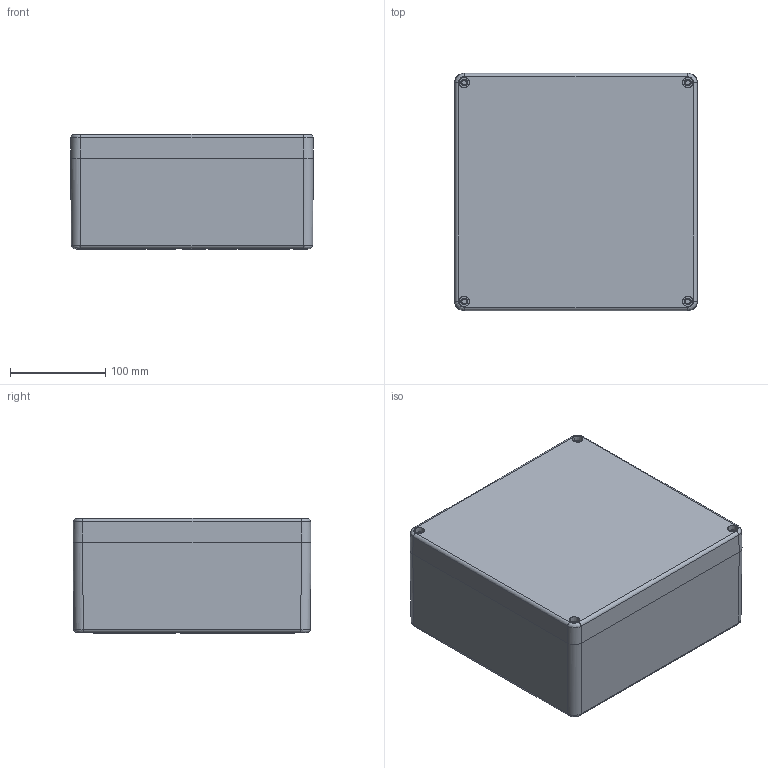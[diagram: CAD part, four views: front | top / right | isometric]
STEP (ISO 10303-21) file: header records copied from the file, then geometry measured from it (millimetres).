
FILE_DESCRIPTION (( 'STEP AP203' ), '1' );
FILE_NAME ('GRP ASSY 255250120.STEP', '2024-08-26T10:58:43', ( '' ), ( '' ), 'SwSTEP 2.0', 'SolidWorks 2018', '' );
FILE_SCHEMA (( 'CONFIG_CONTROL_DESIGN' ));
Length unit declared in the file: millimetre
Products named in the file (5): GRP BASE 255250120; M6 BOTTOM INSERT; M6 SS TOP INSERT; GRP ASSY 255250120; GRP LID 255250120
Assembly tree (12 placements, depth 2):
  GRP ASSY 255250120
    GRP BASE 255250120
    GRP LID 255250120
    M6 BOTTOM INSERT  x6
    M6 SS TOP INSERT  x4
Bounding box: 255 x 250 x 121 mm (x, y, z)
Volume: 1526851.3 mm3; surface area: 503319.6 mm2
Topology: 12 solids, 12 shells, 1137 faces, 2736 edges, 1699 vertices
Faces by surface type: plane 422, cylinder 288, bspline 195, cone 192, torus 40
Entity records: 33511 total; most frequent: CARTESIAN_POINT 14838, ORIENTED_EDGE 3896, DIRECTION 3421, EDGE_CURVE 1948, VERTEX_POINT 1219, AXIS2_PLACEMENT_3D 1213, LINE 995, VECTOR 995
